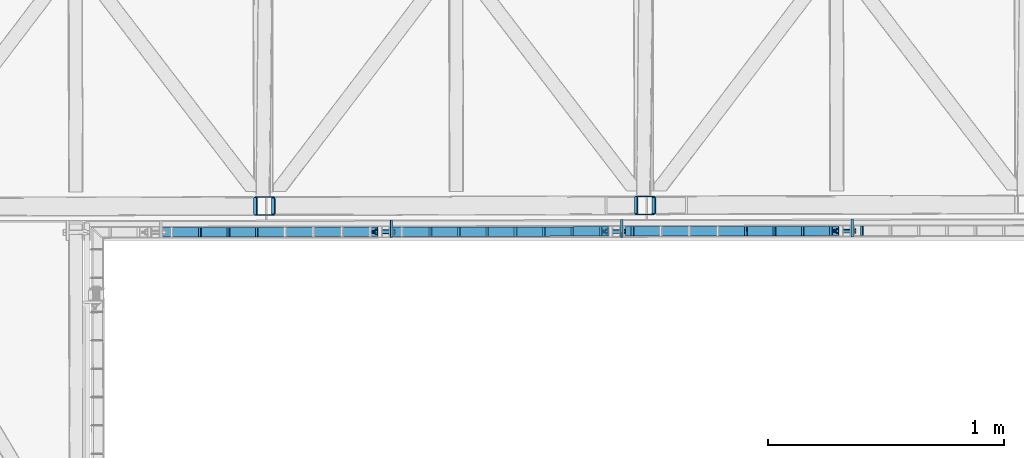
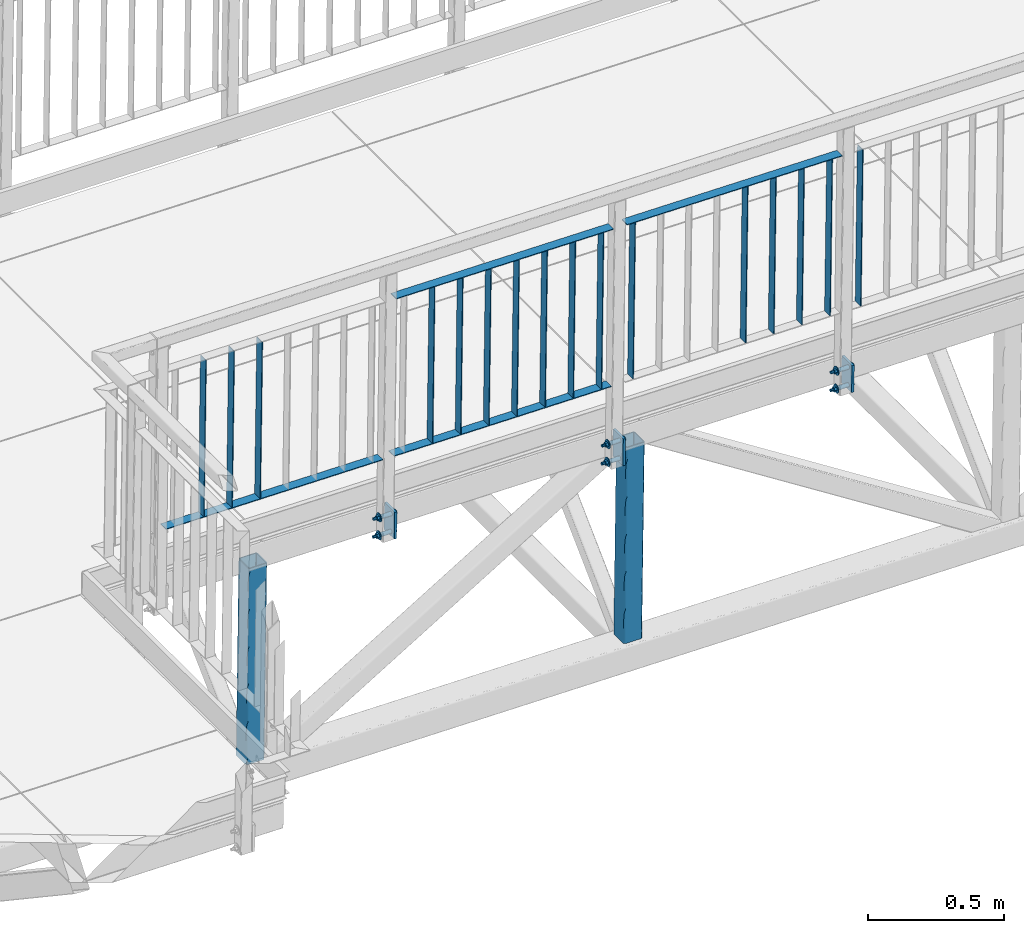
# One storey, part 114 of 169: 25 discrete accessories, 3 mechanical fasteners, 2 elements without a shape of their own.
"""IFC2X3 building model written with IfcOpenShell, lengths in millimetres."""

from ifc_helpers import new_model, si_unit, frame, origin_with_axes, origin_2d_with_axis, place, context, subcontext, project, spatial, polyline, rectangle, hollow_rectangle, circle, outline, extrude, boolean, clip, halfspace, source, transform, mapped, material, type_object, element, aggregate, save


model = new_model("IFC2X3")

# Units and contexts
model_context = context("Model", 3, precision=1e-05, world=origin_with_axes())
body_context = subcontext(model_context, "Body", "Model", "MODEL_VIEW")
ifc_project = project(units=[si_unit("LENGTHUNIT", "METRE", prefix="MILLI"), si_unit("AREAUNIT", "SQUARE_METRE"), si_unit("VOLUMEUNIT", "CUBIC_METRE"), si_unit("MASSUNIT", "GRAM", prefix="KILO"), si_unit("TIMEUNIT", "SECOND"), si_unit("PLANEANGLEUNIT", "RADIAN"), si_unit("SOLIDANGLEUNIT", "STERADIAN"), si_unit("THERMODYNAMICTEMPERATUREUNIT", "DEGREE_CELSIUS"), si_unit("LUMINOUSINTENSITYUNIT", "LUMEN")], contexts=[model_context])

# Site, building, storey
site_placement = place(None, origin_with_axes())
site = spatial("IfcSite", under=ifc_project, at=site_placement, Name="Undefined", CompositionType="ELEMENT")
building_placement = place(site_placement, origin_with_axes())
building = spatial("IfcBuilding", under=site, at=building_placement, Name="Undefined", CompositionType="ELEMENT")
storey_placement = place(building_placement, origin_with_axes())
storey = spatial("IfcBuildingStorey", under=building, at=storey_placement, Name="Undefined", CompositionType="ELEMENT", Elevation=0.0)

# Assembly, discrete accessories
assembly_1_placement = place(storey_placement, origin_with_axes())
assembly_1 = element("IfcElementAssembly", 1, at=assembly_1_placement, inside=storey, Name="Steel Assembly", AssemblyPlace="NOTDEFINED", PredefinedType="RIGID_FRAME")
ifc_material_1 = material(Name="STEEL/S235")
discrete_accessory_type_1 = type_object("IfcDiscreteAccessoryType", Name="BLACHA")
discrete_accessory_1_placement = place(assembly_1_placement, frame((13432.2343643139, 70.0631696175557, 13783.4938656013), z_axis=(-0.999917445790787, -0.00186469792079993, 0.0127131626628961), x_axis=(0.00186484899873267, -0.999998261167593, 4.28757666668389e-08)))
discrete_accessory_1 = element("IfcDiscreteAccessory", 2, at=discrete_accessory_1_placement, type_object=discrete_accessory_type_1, material=ifc_material_1, Name="BLACHA", ObjectType="BL10*120", context=body_context, shape_type="SweptSolid", body=[
    extrude(outline(polyline([(75.0000002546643, -60.0000000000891), (-5.35749222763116e-11, -59.9999999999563), (5.3567816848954e-11, 59.9999999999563), (75.0000002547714, 59.9999999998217), (75.0000002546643, -60.0000000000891)])), frame((-1.81898926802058e-12, -1.18000176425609e-16, -5.00000000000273), z_axis=(0.0, 0.0, 1.0), x_axis=(1.0, 0.0, 0.0)), (0.0, 0.0, 1.0), 10.0),
])
discrete_accessory_2_placement = place(assembly_1_placement, frame((12457.3148546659, 68.2450890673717, 13795.8891985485), z_axis=(-0.999917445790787, -0.00186469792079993, 0.0127131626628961), x_axis=(0.00186484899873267, -0.999998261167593, 4.28757666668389e-08)))
discrete_accessory_2 = element("IfcDiscreteAccessory", 3, at=discrete_accessory_2_placement, type_object=discrete_accessory_type_1, material=ifc_material_1, Name="BLACHA", ObjectType="BL10*120", context=body_context, shape_type="SweptSolid", body=[
    extrude(outline(polyline([(75.0000002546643, -60.0000000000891), (-5.35749222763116e-11, -59.9999999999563), (5.3567816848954e-11, 59.9999999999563), (75.0000002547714, 59.9999999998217), (75.0000002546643, -60.0000000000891)])), frame((-1.81898926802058e-12, -1.18000176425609e-16, -5.00000000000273), z_axis=(0.0, 0.0, 1.0), x_axis=(1.0, 0.0, 0.0)), (0.0, 0.0, 1.0), 10.0),
])
discrete_accessory_3_placement = place(assembly_1_placement, frame((11482.3953450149, 66.4270085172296, 13808.2845314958), z_axis=(-0.999917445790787, -0.00186469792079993, 0.0127131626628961), x_axis=(0.00186484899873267, -0.999998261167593, 4.28757666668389e-08)))
discrete_accessory_3 = element("IfcDiscreteAccessory", 4, at=discrete_accessory_3_placement, type_object=discrete_accessory_type_1, material=ifc_material_1, Name="BLACHA", ObjectType="BL10*120", context=body_context, shape_type="SweptSolid", body=[
    extrude(outline(polyline([(75.0000002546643, -60.0000000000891), (-5.35749222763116e-11, -59.9999999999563), (5.3567816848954e-11, 59.9999999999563), (75.0000002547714, 59.9999999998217), (75.0000002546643, -60.0000000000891)])), frame((-1.81898926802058e-12, -1.18000176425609e-16, -5.00000000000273), z_axis=(0.0, 0.0, 1.0), x_axis=(1.0, 0.0, 0.0)), (0.0, 0.0, 1.0), 10.0),
])
ifc_material_2 = material(Name="STEEL/S355")
discrete_accessory_type_2 = type_object("IfcDiscreteAccessoryType", Name="BEAM")
discrete_accessory_4_placement = place(assembly_1_placement, frame((12549.5842980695, 128.417221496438, 12794.6337078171), z_axis=(-0.999917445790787, -0.00186469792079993, 0.0127131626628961), x_axis=(0.012713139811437, 2.3750999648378e-05, 0.999919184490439)))
discrete_accessory_4 = element("IfcDiscreteAccessory", 5, at=discrete_accessory_4_placement, type_object=discrete_accessory_type_2, material=ifc_material_2, Name="BEAM", ObjectType="K80/4", context=body_context, shape_type="Clipping", body=[
    clip(clip(extrude(hollow_rectangle(XDim=80.0, YDim=80.0, WallThickness=4.0, InnerFilletRadius=4.0, OuterFilletRadius=8.0, at=origin_2d_with_axis()), frame((940.000112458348, 4.54747487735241e-13, 0.0), z_axis=(-1.0, -3.46944695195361e-18, -1.38777878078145e-17), x_axis=(1.73472347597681e-18, -1.0, 0.0)), (0.0, 0.0, 1.0), 880.0), halfspace(frame((940.000112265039, -6.72889655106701e-09, 999.999999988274), z_axis=(-1.0, -3.46944695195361e-18, -1.38777878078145e-17), x_axis=(1.73472347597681e-18, -1.0, 0.0)), True)), halfspace(frame((60.0001122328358, 8.14088707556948e-09, 1000.00000001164), z_axis=(1.0, 0.0, 0.0), x_axis=(0.0, 1.0, 0.0)), True)),
])
discrete_accessory_5_placement = place(assembly_1_placement, frame((10939.7171689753, 125.415057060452, 12815.1018988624), z_axis=(-0.999917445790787, -0.00186469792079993, 0.0127131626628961), x_axis=(0.012713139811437, 2.3750999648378e-05, 0.999919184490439)))
discrete_accessory_5 = element("IfcDiscreteAccessory", 6, at=discrete_accessory_5_placement, type_object=discrete_accessory_type_2, material=ifc_material_2, Name="BEAM", ObjectType="K80/4", context=body_context, shape_type="Clipping", body=[
    clip(clip(extrude(hollow_rectangle(XDim=80.0, YDim=80.0, WallThickness=4.0, InnerFilletRadius=4.0, OuterFilletRadius=8.0, at=origin_2d_with_axis()), frame((940.000112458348, 4.54747487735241e-13, 0.0), z_axis=(-1.0, -3.46944695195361e-18, -1.38777878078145e-17), x_axis=(1.73472347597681e-18, -1.0, 0.0)), (0.0, 0.0, 1.0), 880.0), halfspace(frame((940.000112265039, -6.72889655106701e-09, 999.999999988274), z_axis=(-1.0, -3.46944695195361e-18, -1.38777878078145e-17), x_axis=(1.73472347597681e-18, -1.0, 0.0)), True)), halfspace(frame((60.0001122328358, 8.14088707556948e-09, 1000.00000001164), z_axis=(1.0, 0.0, 0.0), x_axis=(0.0, 1.0, 0.0)), True)),
])
aggregate(assembly_1, [discrete_accessory_1, discrete_accessory_2, discrete_accessory_3, discrete_accessory_4, discrete_accessory_5])

# Assembly, discrete accessories, mechanical fasteners
assembly_2_placement = place(storey_placement, origin_with_axes())
assembly_2 = element("IfcElementAssembly", 7, at=assembly_2_placement, inside=storey, Name="Steel Assembly", AssemblyPlace="NOTDEFINED", PredefinedType="RIGID_FRAME")
discrete_accessory_type_3 = type_object("IfcDiscreteAccessoryType", Name="PORĘCZ")
discrete_accessory_6_placement = place(assembly_2_placement, frame((13480.1217467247, 20.1524350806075, 14942.9799565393), z_axis=(-0.0018648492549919, 0.999998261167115, -4.2996762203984e-08), x_axis=(-0.012713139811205, -2.37511238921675e-05, -0.999919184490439)))
discrete_accessory_6 = element("IfcDiscreteAccessory", 8, at=discrete_accessory_6_placement, type_object=discrete_accessory_type_3, material=ifc_material_1, Name="PORĘCZ", ObjectType="BL40*3", context=body_context, shape_type="Clipping", body=[
    clip(clip(extrude(rectangle(XDim=3.0, YDim=40.0, at=origin_2d_with_axis()), frame((848.500000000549, 1.47191286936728e-15, -8.89750592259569e-16), z_axis=(-1.0, -3.46944695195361e-18, -1.38777878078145e-17), x_axis=(1.73472347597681e-18, -1.0, 0.0)), (0.0, 0.0, 1.0), 702.0), halfspace(frame((848.499999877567, 4.522007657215e-09, 1000.00000000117), z_axis=(-1.0, -3.46944695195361e-18, -1.38777878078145e-17), x_axis=(1.73472347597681e-18, -1.0, 0.0)), True)), halfspace(frame((146.499999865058, 4.97311702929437e-09, 1000.00000000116), z_axis=(1.0, 0.0, 0.0), x_axis=(0.0, 1.0, 0.0)), True)),
])
discrete_accessory_7_placement = place(assembly_2_placement, frame((12509.6026217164, 18.3425605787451, 14955.3193420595), z_axis=(-0.0018648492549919, 0.999998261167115, -4.2996762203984e-08), x_axis=(-0.012713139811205, -2.37511238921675e-05, -0.999919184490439)))
discrete_accessory_7 = element("IfcDiscreteAccessory", 9, at=discrete_accessory_7_placement, type_object=discrete_accessory_type_3, material=ifc_material_1, Name="PORĘCZ", ObjectType="BL40*3", context=body_context, shape_type="Clipping", body=[
    clip(clip(extrude(rectangle(XDim=3.0, YDim=40.0, at=origin_2d_with_axis()), frame((848.500000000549, 1.47191286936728e-15, -8.89750592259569e-16), z_axis=(-1.0, -3.46944695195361e-18, -1.38777878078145e-17), x_axis=(1.73472347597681e-18, -1.0, 0.0)), (0.0, 0.0, 1.0), 702.0), halfspace(frame((848.499999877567, 4.522007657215e-09, 1000.00000000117), z_axis=(-1.0, -3.46944695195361e-18, -1.38777878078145e-17), x_axis=(1.73472347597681e-18, -1.0, 0.0)), True)), halfspace(frame((146.499999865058, 4.97311702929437e-09, 1000.00000000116), z_axis=(1.0, 0.0, 0.0), x_axis=(0.0, 1.0, 0.0)), True)),
])
discrete_accessory_8_placement = place(assembly_2_placement, frame((13445.2314438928, 20.0873635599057, 14798.4118400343), z_axis=(-0.012713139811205, -2.37511238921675e-05, -0.999919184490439), x_axis=(-0.999917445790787, -0.00186469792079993, 0.0127131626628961)))
discrete_accessory_8 = element("IfcDiscreteAccessory", 10, at=discrete_accessory_8_placement, type_object=discrete_accessory_type_3, material=ifc_material_1, Name="PORĘCZ", ObjectType="BL40*3", context=body_context, shape_type="CSG", body=[
    boolean("DIFFERENCE", boolean("DIFFERENCE", boolean("DIFFERENCE", extrude(outline(polyline([(972.599252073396, -19.9999999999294), (55.0000000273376, -19.999999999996), (55.0000000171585, 20.000000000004), (972.599252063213, 20.0000000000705), (972.599252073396, -19.9999999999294)])), frame((1.81898940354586e-12, -1.77635442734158e-15, -1.50000000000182), z_axis=(0.0, 0.0, 1.0), x_axis=(1.0, 0.0, 0.0)), (0.0, 0.0, 1.0), 3.0), extrude(rectangle(XDim=51.0, YDim=51.0, at=origin_2d_with_axis()), frame((-5.94487782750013e-08, -4.65977194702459e-09, -139.999999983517), z_axis=(0.0, 0.0, 1.0), x_axis=(1.0, 0.0, 0.0)), (0.0, 0.0, 1.0), 280.0)), extrude(rectangle(XDim=51.0, YDim=51.0, at=origin_2d_with_axis()), frame((998.099252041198, 3.51939400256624e-08, -140.00000001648), z_axis=(0.0, 0.0, 1.0), x_axis=(1.0, 0.0, 0.0)), (0.0, 0.0, 1.0), 280.0)), halfspace(frame((54.9999997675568, 1000.00000000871, -5.03860064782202e-09), z_axis=(1.0, 0.0, 0.0), x_axis=(-2.54700353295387e-10, 0.0, -1.0)), True)),
])
discrete_accessory_9_placement = place(assembly_2_placement, frame((13349.5332761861, 19.9089068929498, 14944.6402859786), z_axis=(-0.0018648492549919, 0.999998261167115, -4.2996762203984e-08), x_axis=(-0.012713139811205, -2.37511238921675e-05, -0.999919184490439)))
discrete_accessory_9 = element("IfcDiscreteAccessory", 11, at=discrete_accessory_9_placement, type_object=discrete_accessory_type_3, material=ifc_material_1, Name="PORĘCZ", ObjectType="BL40*3", context=body_context, shape_type="Clipping", body=[
    clip(clip(extrude(rectangle(XDim=3.0, YDim=40.0, at=origin_2d_with_axis()), frame((848.500000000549, 1.47191286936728e-15, -8.89750592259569e-16), z_axis=(-1.0, -3.46944695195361e-18, -1.38777878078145e-17), x_axis=(1.73472347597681e-18, -1.0, 0.0)), (0.0, 0.0, 1.0), 702.0), halfspace(frame((848.499999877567, 4.522007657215e-09, 1000.00000000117), z_axis=(-1.0, -3.46944695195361e-18, -1.38777878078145e-17), x_axis=(1.73472347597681e-18, -1.0, 0.0)), True)), halfspace(frame((146.499999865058, 4.97311702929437e-09, 1000.00000000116), z_axis=(1.0, 0.0, 0.0), x_axis=(0.0, 1.0, 0.0)), True)),
])
discrete_accessory_10_placement = place(assembly_2_placement, frame((13229.5431826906, 19.6851431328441, 14946.1658654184), z_axis=(-0.0018648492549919, 0.999998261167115, -4.2996762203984e-08), x_axis=(-0.012713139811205, -2.37511238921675e-05, -0.999919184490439)))
discrete_accessory_10 = element("IfcDiscreteAccessory", 12, at=discrete_accessory_10_placement, type_object=discrete_accessory_type_3, material=ifc_material_1, Name="PORĘCZ", ObjectType="BL40*3", context=body_context, shape_type="Clipping", body=[
    clip(clip(extrude(rectangle(XDim=3.0, YDim=40.0, at=origin_2d_with_axis()), frame((848.500000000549, 1.47191286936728e-15, -8.89750592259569e-16), z_axis=(-1.0, -3.46944695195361e-18, -1.38777878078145e-17), x_axis=(1.73472347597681e-18, -1.0, 0.0)), (0.0, 0.0, 1.0), 702.0), halfspace(frame((848.499999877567, 4.522007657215e-09, 1000.00000000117), z_axis=(-1.0, -3.46944695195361e-18, -1.38777878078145e-17), x_axis=(1.73472347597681e-18, -1.0, 0.0)), True)), halfspace(frame((146.499999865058, 4.97311702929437e-09, 1000.00000000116), z_axis=(1.0, 0.0, 0.0), x_axis=(0.0, 1.0, 0.0)), True)),
])
discrete_accessory_11_placement = place(assembly_2_placement, frame((13109.553089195, 19.4613793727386, 14947.6914448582), z_axis=(-0.0018648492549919, 0.999998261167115, -4.2996762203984e-08), x_axis=(-0.012713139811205, -2.37511238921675e-05, -0.999919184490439)))
discrete_accessory_11 = element("IfcDiscreteAccessory", 13, at=discrete_accessory_11_placement, type_object=discrete_accessory_type_3, material=ifc_material_1, Name="PORĘCZ", ObjectType="BL40*3", context=body_context, shape_type="Clipping", body=[
    clip(clip(extrude(rectangle(XDim=3.0, YDim=40.0, at=origin_2d_with_axis()), frame((848.500000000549, 1.47191286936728e-15, -8.89750592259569e-16), z_axis=(-1.0, -3.46944695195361e-18, -1.38777878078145e-17), x_axis=(1.73472347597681e-18, -1.0, 0.0)), (0.0, 0.0, 1.0), 702.0), halfspace(frame((848.499999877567, 4.522007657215e-09, 1000.00000000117), z_axis=(-1.0, -3.46944695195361e-18, -1.38777878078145e-17), x_axis=(1.73472347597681e-18, -1.0, 0.0)), True)), halfspace(frame((146.499999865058, 4.97311702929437e-09, 1000.00000000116), z_axis=(1.0, 0.0, 0.0), x_axis=(0.0, 1.0, 0.0)), True)),
])
discrete_accessory_12_placement = place(assembly_2_placement, frame((12989.5629956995, 19.2376156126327, 14949.217024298), z_axis=(-0.0018648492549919, 0.999998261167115, -4.2996762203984e-08), x_axis=(-0.012713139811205, -2.37511238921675e-05, -0.999919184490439)))
discrete_accessory_12 = element("IfcDiscreteAccessory", 14, at=discrete_accessory_12_placement, type_object=discrete_accessory_type_3, material=ifc_material_1, Name="PORĘCZ", ObjectType="BL40*3", context=body_context, shape_type="Clipping", body=[
    clip(clip(extrude(rectangle(XDim=3.0, YDim=40.0, at=origin_2d_with_axis()), frame((848.500000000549, 1.47191286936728e-15, -8.89750592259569e-16), z_axis=(-1.0, -3.46944695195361e-18, -1.38777878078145e-17), x_axis=(1.73472347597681e-18, -1.0, 0.0)), (0.0, 0.0, 1.0), 702.0), halfspace(frame((848.499999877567, 4.522007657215e-09, 1000.00000000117), z_axis=(-1.0, -3.46944695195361e-18, -1.38777878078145e-17), x_axis=(1.73472347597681e-18, -1.0, 0.0)), True)), halfspace(frame((146.499999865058, 4.97311702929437e-09, 1000.00000000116), z_axis=(1.0, 0.0, 0.0), x_axis=(0.0, 1.0, 0.0)), True)),
])
discrete_accessory_13_placement = place(assembly_2_placement, frame((12460.3127597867, 18.2506360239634, 14810.9343046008), z_axis=(-0.012713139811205, -2.37511238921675e-05, -0.999919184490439), x_axis=(-0.999917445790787, -0.00186469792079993, 0.0127131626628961)))
discrete_accessory_13 = element("IfcDiscreteAccessory", 15, at=discrete_accessory_13_placement, type_object=discrete_accessory_type_3, material=ifc_material_1, Name="PORĘCZ", ObjectType="BL40*3", context=body_context, shape_type="CSG", body=[
    boolean("DIFFERENCE", boolean("DIFFERENCE", boolean("DIFFERENCE", extrude(outline(polyline([(972.599252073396, -19.9999999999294), (45.0000000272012, -19.9999999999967), (45.0000000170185, 20.0000000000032), (972.599252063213, 20.0000000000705), (972.599252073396, -19.9999999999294)])), frame((1.81898940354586e-12, -1.77635442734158e-15, -1.50000000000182), z_axis=(0.0, 0.0, 1.0), x_axis=(1.0, 0.0, 0.0)), (0.0, 0.0, 1.0), 3.0), extrude(rectangle(XDim=51.0, YDim=51.0, at=origin_2d_with_axis()), frame((-5.94487782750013e-08, -4.65977194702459e-09, -139.999999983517), z_axis=(0.0, 0.0, 1.0), x_axis=(1.0, 0.0, 0.0)), (0.0, 0.0, 1.0), 280.0)), extrude(rectangle(XDim=51.0, YDim=51.0, at=origin_2d_with_axis()), frame((998.099252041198, 3.51939400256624e-08, -140.00000001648), z_axis=(0.0, 0.0, 1.0), x_axis=(1.0, 0.0, 0.0)), (0.0, 0.0, 1.0), 280.0)), halfspace(frame((44.9999997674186, 1000.00000000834, -5.01677277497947e-09), z_axis=(1.0, 0.0, 0.0), x_axis=(-2.54700353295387e-10, 0.0, -1.0)), True)),
])
discrete_accessory_14_placement = place(assembly_2_placement, frame((12374.6137665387, 18.090826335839, 14957.0356189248), z_axis=(-0.0018648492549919, 0.999998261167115, -4.2996762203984e-08), x_axis=(-0.012713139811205, -2.37511238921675e-05, -0.999919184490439)))
discrete_accessory_14 = element("IfcDiscreteAccessory", 16, at=discrete_accessory_14_placement, type_object=discrete_accessory_type_3, material=ifc_material_1, Name="PORĘCZ", ObjectType="BL40*3", context=body_context, shape_type="Clipping", body=[
    clip(clip(extrude(rectangle(XDim=3.0, YDim=40.0, at=origin_2d_with_axis()), frame((848.500000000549, 1.47191286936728e-15, -8.89750592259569e-16), z_axis=(-1.0, -3.46944695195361e-18, -1.38777878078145e-17), x_axis=(1.73472347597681e-18, -1.0, 0.0)), (0.0, 0.0, 1.0), 702.0), halfspace(frame((848.499999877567, 4.522007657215e-09, 1000.00000000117), z_axis=(-1.0, -3.46944695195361e-18, -1.38777878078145e-17), x_axis=(1.73472347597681e-18, -1.0, 0.0)), True)), halfspace(frame((146.499999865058, 4.97311702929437e-09, 1000.00000000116), z_axis=(1.0, 0.0, 0.0), x_axis=(0.0, 1.0, 0.0)), True)),
])
discrete_accessory_15_placement = place(assembly_2_placement, frame((12254.6236730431, 17.8670625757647, 14958.5611983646), z_axis=(-0.0018648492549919, 0.999998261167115, -4.2996762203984e-08), x_axis=(-0.012713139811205, -2.37511238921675e-05, -0.999919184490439)))
discrete_accessory_15 = element("IfcDiscreteAccessory", 17, at=discrete_accessory_15_placement, type_object=discrete_accessory_type_3, material=ifc_material_1, Name="PORĘCZ", ObjectType="BL40*3", context=body_context, shape_type="Clipping", body=[
    clip(clip(extrude(rectangle(XDim=3.0, YDim=40.0, at=origin_2d_with_axis()), frame((848.500000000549, 1.47191286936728e-15, -8.89750592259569e-16), z_axis=(-1.0, -3.46944695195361e-18, -1.38777878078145e-17), x_axis=(1.73472347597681e-18, -1.0, 0.0)), (0.0, 0.0, 1.0), 702.0), halfspace(frame((848.499999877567, 4.522007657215e-09, 1000.00000000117), z_axis=(-1.0, -3.46944695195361e-18, -1.38777878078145e-17), x_axis=(1.73472347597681e-18, -1.0, 0.0)), True)), halfspace(frame((146.499999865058, 4.97311702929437e-09, 1000.00000000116), z_axis=(1.0, 0.0, 0.0), x_axis=(0.0, 1.0, 0.0)), True)),
])
discrete_accessory_16_placement = place(assembly_2_placement, frame((12134.6335795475, 17.6432988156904, 14960.0867778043), z_axis=(-0.0018648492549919, 0.999998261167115, -4.2996762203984e-08), x_axis=(-0.012713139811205, -2.37511238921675e-05, -0.999919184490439)))
discrete_accessory_16 = element("IfcDiscreteAccessory", 18, at=discrete_accessory_16_placement, type_object=discrete_accessory_type_3, material=ifc_material_1, Name="PORĘCZ", ObjectType="BL40*3", context=body_context, shape_type="Clipping", body=[
    clip(clip(extrude(rectangle(XDim=3.0, YDim=40.0, at=origin_2d_with_axis()), frame((848.500000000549, 1.47191286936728e-15, -8.89750592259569e-16), z_axis=(-1.0, -3.46944695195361e-18, -1.38777878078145e-17), x_axis=(1.73472347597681e-18, -1.0, 0.0)), (0.0, 0.0, 1.0), 702.0), halfspace(frame((848.499999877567, 4.522007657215e-09, 1000.00000000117), z_axis=(-1.0, -3.46944695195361e-18, -1.38777878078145e-17), x_axis=(1.73472347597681e-18, -1.0, 0.0)), True)), halfspace(frame((146.499999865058, 4.97311702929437e-09, 1000.00000000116), z_axis=(1.0, 0.0, 0.0), x_axis=(0.0, 1.0, 0.0)), True)),
])
discrete_accessory_17_placement = place(assembly_2_placement, frame((12014.6434860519, 17.4195350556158, 14961.6123572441), z_axis=(-0.0018648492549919, 0.999998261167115, -4.2996762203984e-08), x_axis=(-0.012713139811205, -2.37511238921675e-05, -0.999919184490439)))
discrete_accessory_17 = element("IfcDiscreteAccessory", 19, at=discrete_accessory_17_placement, type_object=discrete_accessory_type_3, material=ifc_material_1, Name="PORĘCZ", ObjectType="BL40*3", context=body_context, shape_type="Clipping", body=[
    clip(clip(extrude(rectangle(XDim=3.0, YDim=40.0, at=origin_2d_with_axis()), frame((848.500000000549, 1.47191286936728e-15, -8.89750592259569e-16), z_axis=(-1.0, -3.46944695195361e-18, -1.38777878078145e-17), x_axis=(1.73472347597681e-18, -1.0, 0.0)), (0.0, 0.0, 1.0), 702.0), halfspace(frame((848.499999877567, 4.522007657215e-09, 1000.00000000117), z_axis=(-1.0, -3.46944695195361e-18, -1.38777878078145e-17), x_axis=(1.73472347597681e-18, -1.0, 0.0)), True)), halfspace(frame((146.499999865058, 4.97311702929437e-09, 1000.00000000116), z_axis=(1.0, 0.0, 0.0), x_axis=(0.0, 1.0, 0.0)), True)),
])
discrete_accessory_18_placement = place(assembly_2_placement, frame((11894.6533925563, 17.1957712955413, 14963.1379366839), z_axis=(-0.0018648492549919, 0.999998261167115, -4.2996762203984e-08), x_axis=(-0.012713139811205, -2.37511238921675e-05, -0.999919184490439)))
discrete_accessory_18 = element("IfcDiscreteAccessory", 20, at=discrete_accessory_18_placement, type_object=discrete_accessory_type_3, material=ifc_material_1, Name="PORĘCZ", ObjectType="BL40*3", context=body_context, shape_type="Clipping", body=[
    clip(clip(extrude(rectangle(XDim=3.0, YDim=40.0, at=origin_2d_with_axis()), frame((848.500000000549, 1.47191286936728e-15, -8.89750592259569e-16), z_axis=(-1.0, -3.46944695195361e-18, -1.38777878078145e-17), x_axis=(1.73472347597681e-18, -1.0, 0.0)), (0.0, 0.0, 1.0), 702.0), halfspace(frame((848.499999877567, 4.522007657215e-09, 1000.00000000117), z_axis=(-1.0, -3.46944695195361e-18, -1.38777878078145e-17), x_axis=(1.73472347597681e-18, -1.0, 0.0)), True)), halfspace(frame((146.499999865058, 4.97311702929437e-09, 1000.00000000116), z_axis=(1.0, 0.0, 0.0), x_axis=(0.0, 1.0, 0.0)), True)),
])
discrete_accessory_19_placement = place(assembly_2_placement, frame((11774.6632990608, 16.9720075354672, 14964.6635161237), z_axis=(-0.0018648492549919, 0.999998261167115, -4.2996762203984e-08), x_axis=(-0.012713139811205, -2.37511238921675e-05, -0.999919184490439)))
discrete_accessory_19 = element("IfcDiscreteAccessory", 21, at=discrete_accessory_19_placement, type_object=discrete_accessory_type_3, material=ifc_material_1, Name="PORĘCZ", ObjectType="BL40*3", context=body_context, shape_type="Clipping", body=[
    clip(clip(extrude(rectangle(XDim=3.0, YDim=40.0, at=origin_2d_with_axis()), frame((848.500000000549, 1.47191286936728e-15, -8.89750592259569e-16), z_axis=(-1.0, -3.46944695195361e-18, -1.38777878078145e-17), x_axis=(1.73472347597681e-18, -1.0, 0.0)), (0.0, 0.0, 1.0), 702.0), halfspace(frame((848.499999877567, 4.522007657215e-09, 1000.00000000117), z_axis=(-1.0, -3.46944695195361e-18, -1.38777878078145e-17), x_axis=(1.73472347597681e-18, -1.0, 0.0)), True)), halfspace(frame((146.499999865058, 4.97311702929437e-09, 1000.00000000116), z_axis=(1.0, 0.0, 0.0), x_axis=(0.0, 1.0, 0.0)), True)),
])
discrete_accessory_20_placement = place(assembly_2_placement, frame((11654.6732055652, 16.7482437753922, 14966.1890955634), z_axis=(-0.0018648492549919, 0.999998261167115, -4.2996762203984e-08), x_axis=(-0.012713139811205, -2.37511238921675e-05, -0.999919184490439)))
discrete_accessory_20 = element("IfcDiscreteAccessory", 22, at=discrete_accessory_20_placement, type_object=discrete_accessory_type_3, material=ifc_material_1, Name="PORĘCZ", ObjectType="BL40*3", context=body_context, shape_type="Clipping", body=[
    clip(clip(extrude(rectangle(XDim=3.0, YDim=40.0, at=origin_2d_with_axis()), frame((848.500000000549, 1.47191286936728e-15, -8.89750592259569e-16), z_axis=(-1.0, -3.46944695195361e-18, -1.38777878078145e-17), x_axis=(1.73472347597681e-18, -1.0, 0.0)), (0.0, 0.0, 1.0), 702.0), halfspace(frame((848.499999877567, 4.522007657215e-09, 1000.00000000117), z_axis=(-1.0, -3.46944695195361e-18, -1.38777878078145e-17), x_axis=(1.73472347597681e-18, -1.0, 0.0)), True)), halfspace(frame((146.499999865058, 4.97311702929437e-09, 1000.00000000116), z_axis=(1.0, 0.0, 0.0), x_axis=(0.0, 1.0, 0.0)), True)),
])
discrete_accessory_21_placement = place(assembly_2_placement, frame((12451.3499962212, 18.2338914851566, 14105.9912795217), z_axis=(-0.012713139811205, -2.37511238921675e-05, -0.999919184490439), x_axis=(-0.999917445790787, -0.00186469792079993, 0.0127131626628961)))
discrete_accessory_21 = element("IfcDiscreteAccessory", 23, at=discrete_accessory_21_placement, type_object=discrete_accessory_type_3, material=ifc_material_1, Name="PORĘCZ", ObjectType="BL40*3", context=body_context, shape_type="CSG", body=[
    boolean("DIFFERENCE", boolean("DIFFERENCE", boolean("DIFFERENCE", extrude(outline(polyline([(972.599252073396, -19.9999999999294), (45.0000000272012, -19.9999999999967), (45.0000000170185, 20.0000000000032), (972.599252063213, 20.0000000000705), (972.599252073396, -19.9999999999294)])), frame((1.81898940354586e-12, -1.77635442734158e-15, -1.50000000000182), z_axis=(0.0, 0.0, 1.0), x_axis=(1.0, 0.0, 0.0)), (0.0, 0.0, 1.0), 3.0), extrude(rectangle(XDim=51.0, YDim=51.0, at=origin_2d_with_axis()), frame((-5.94487782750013e-08, -4.65977194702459e-09, -139.999999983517), z_axis=(0.0, 0.0, 1.0), x_axis=(1.0, 0.0, 0.0)), (0.0, 0.0, 1.0), 280.0)), extrude(rectangle(XDim=51.0, YDim=51.0, at=origin_2d_with_axis()), frame((998.099252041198, 3.51939400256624e-08, -140.00000001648), z_axis=(0.0, 0.0, 1.0), x_axis=(1.0, 0.0, 0.0)), (0.0, 0.0, 1.0), 280.0)), halfspace(frame((44.9999997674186, 1000.00000000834, -5.01677277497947e-09), z_axis=(1.0, 0.0, 0.0), x_axis=(-2.54700353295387e-10, 0.0, -1.0)), True)),
])
discrete_accessory_22_placement = place(assembly_2_placement, frame((10919.7338829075, 15.3776907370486, 14975.5332696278), z_axis=(-0.0018648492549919, 0.999998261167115, -4.2996762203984e-08), x_axis=(-0.012713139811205, -2.37511238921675e-05, -0.999919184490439)))
discrete_accessory_22 = element("IfcDiscreteAccessory", 24, at=discrete_accessory_22_placement, type_object=discrete_accessory_type_3, material=ifc_material_1, Name="PORĘCZ", ObjectType="BL40*3", context=body_context, shape_type="Clipping", body=[
    clip(clip(extrude(rectangle(XDim=3.0, YDim=40.0, at=origin_2d_with_axis()), frame((848.500000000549, 1.47191286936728e-15, -8.89750592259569e-16), z_axis=(-1.0, -3.46944695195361e-18, -1.38777878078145e-17), x_axis=(1.73472347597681e-18, -1.0, 0.0)), (0.0, 0.0, 1.0), 702.0), halfspace(frame((848.499999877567, 4.522007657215e-09, 1000.00000000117), z_axis=(-1.0, -3.46944695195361e-18, -1.38777878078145e-17), x_axis=(1.73472347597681e-18, -1.0, 0.0)), True)), halfspace(frame((146.499999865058, 4.97311702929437e-09, 1000.00000000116), z_axis=(1.0, 0.0, 0.0), x_axis=(0.0, 1.0, 0.0)), True)),
])
discrete_accessory_23_placement = place(assembly_2_placement, frame((10799.7437894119, 15.153926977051, 14977.0588490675), z_axis=(-0.0018648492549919, 0.999998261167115, -4.2996762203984e-08), x_axis=(-0.012713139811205, -2.37511238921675e-05, -0.999919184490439)))
discrete_accessory_23 = element("IfcDiscreteAccessory", 25, at=discrete_accessory_23_placement, type_object=discrete_accessory_type_3, material=ifc_material_1, Name="PORĘCZ", ObjectType="BL40*3", context=body_context, shape_type="Clipping", body=[
    clip(clip(extrude(rectangle(XDim=3.0, YDim=40.0, at=origin_2d_with_axis()), frame((848.500000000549, 1.47191286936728e-15, -8.89750592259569e-16), z_axis=(-1.0, -3.46944695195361e-18, -1.38777878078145e-17), x_axis=(1.73472347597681e-18, -1.0, 0.0)), (0.0, 0.0, 1.0), 702.0), halfspace(frame((848.499999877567, 4.522007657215e-09, 1000.00000000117), z_axis=(-1.0, -3.46944695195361e-18, -1.38777878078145e-17), x_axis=(1.73472347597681e-18, -1.0, 0.0)), True)), halfspace(frame((146.499999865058, 4.97311702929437e-09, 1000.00000000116), z_axis=(1.0, 0.0, 0.0), x_axis=(0.0, 1.0, 0.0)), True)),
])
discrete_accessory_24_placement = place(assembly_2_placement, frame((10679.7536959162, 14.9301632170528, 14978.5844285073), z_axis=(-0.0018648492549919, 0.999998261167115, -4.2996762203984e-08), x_axis=(-0.012713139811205, -2.37511238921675e-05, -0.999919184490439)))
discrete_accessory_24 = element("IfcDiscreteAccessory", 26, at=discrete_accessory_24_placement, type_object=discrete_accessory_type_3, material=ifc_material_1, Name="PORĘCZ", ObjectType="BL40*3", context=body_context, shape_type="Clipping", body=[
    clip(clip(extrude(rectangle(XDim=3.0, YDim=40.0, at=origin_2d_with_axis()), frame((848.500000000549, 1.47191286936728e-15, -8.89750592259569e-16), z_axis=(-1.0, -3.46944695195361e-18, -1.38777878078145e-17), x_axis=(1.73472347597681e-18, -1.0, 0.0)), (0.0, 0.0, 1.0), 702.0), halfspace(frame((848.499999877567, 4.522007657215e-09, 1000.00000000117), z_axis=(-1.0, -3.46944695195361e-18, -1.38777878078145e-17), x_axis=(1.73472347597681e-18, -1.0, 0.0)), True)), halfspace(frame((146.499999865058, 4.97311702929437e-09, 1000.00000000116), z_axis=(1.0, 0.0, 0.0), x_axis=(0.0, 1.0, 0.0)), True)),
])
discrete_accessory_25_placement = place(assembly_2_placement, frame((11466.431312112, 16.3971639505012, 14118.5137440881), z_axis=(-0.012713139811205, -2.37511238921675e-05, -0.999919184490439), x_axis=(-0.999917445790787, -0.00186469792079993, 0.0127131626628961)))
discrete_accessory_25 = element("IfcDiscreteAccessory", 27, at=discrete_accessory_25_placement, type_object=discrete_accessory_type_3, material=ifc_material_1, Name="PORĘCZ", ObjectType="BL40*3", context=body_context, shape_type="CSG", body=[
    boolean("DIFFERENCE", boolean("DIFFERENCE", boolean("DIFFERENCE", boolean("DIFFERENCE", extrude(outline(polyline([(960.000000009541, -19.9999999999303), (35.0000000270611, -19.9999999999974), (35.0000000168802, 20.0000000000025), (959.999999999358, 20.0000000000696), (960.000000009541, -19.9999999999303)])), frame((1.81898940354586e-12, -1.77635442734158e-15, -1.50000000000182), z_axis=(0.0, 0.0, 1.0), x_axis=(1.0, 0.0, 0.0)), (0.0, 0.0, 1.0), 3.0), extrude(rectangle(XDim=51.0, YDim=51.0, at=origin_2d_with_axis()), frame((-5.94487782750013e-08, -4.65977194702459e-09, -139.999999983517), z_axis=(0.0, 0.0, 1.0), x_axis=(1.0, 0.0, 0.0)), (0.0, 0.0, 1.0), 280.0)), extrude(rectangle(XDim=51.0, YDim=51.0, at=origin_2d_with_axis()), frame((998.099252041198, 3.51939400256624e-08, -140.00000001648), z_axis=(0.0, 0.0, 1.0), x_axis=(1.0, 0.0, 0.0)), (0.0, 0.0, 1.0), 280.0)), halfspace(frame((34.9999997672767, 1000.00000000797, -5.00222085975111e-09), z_axis=(1.0, 0.0, 0.0), x_axis=(-2.54700353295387e-10, 0.0, -1.0)), True)), halfspace(frame((959.999999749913, 999.999999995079, 2.57205101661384e-09), z_axis=(-1.0, -3.46944695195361e-18, -1.38777878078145e-17), x_axis=(0.0, 0.0, 1.0)), True)),
])
ifc_material_3 = material(Name="Undefined")
discrete_accessory_type_4 = type_object("IfcDiscreteAccessoryType", Name="Bolt assembly")
shared_shape = source(origin_with_axes(), body_context, "Body", "SweptSolid", [
    extrude(circle(Radius=9.0, at=origin_2d_with_axis()), frame((0.0, -4.90000000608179, 0.0), z_axis=(0.0, 1.0, 0.0), x_axis=(1.0, 0.0, 0.0)), (0.0, 0.0, 1.0), 10.0),
    extrude(circle(Radius=9.0, at=origin_2d_with_axis()), frame((0.0, 4.89999999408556, 0.0), z_axis=(0.0, 1.0, 0.0), x_axis=(1.0, 0.0, 0.0)), (0.0, 0.0, 1.0), 50.1),
    extrude(outline(polyline([(10.39230484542, 0.0), (5.19615242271, 9.00000000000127), (-5.19615242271, 9.00000000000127), (-10.39230484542, 0.0), (-5.19615242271, -9.00000000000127), (5.19615242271, -9.00000000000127), (10.39230484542, 0.0)])), frame((0.0, -15.5000000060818, 0.0), z_axis=(0.0, 1.0, 0.0), x_axis=(1.0, 0.0, 0.0)), (0.0, 0.0, 1.0), 7.5),
    extrude(circle(Radius=6.0, at=origin_2d_with_axis()), frame((0.0, -8.00000000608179, 0.0), z_axis=(0.0, 1.0, 0.0), x_axis=(1.0, 0.0, 0.0)), (0.0, 0.0, 1.0), 90.0),
    extrude(circle(Radius=18.5, at=origin_2d_with_axis()), frame((0.0, -8.00000000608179, 0.0), z_axis=(0.0, 1.0, 0.0), x_axis=(1.0, 0.0, 0.0)), (0.0, 0.0, 1.0), 3.0),
    extrude(circle(Radius=18.5, at=origin_2d_with_axis()), frame((0.0, 54.9999999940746, 0.0), z_axis=(0.0, 1.0, 0.0), x_axis=(1.0, 0.0, 0.0)), (0.0, 0.0, 1.0), 3.0),
    extrude(outline(polyline([(10.96965511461, 0.0), (5.484827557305, 9.50000000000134), (-5.484827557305, 9.50000000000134), (-10.96965511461, 0.0), (-5.484827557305, -9.50000000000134), (5.484827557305, -9.50000000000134), (10.96965511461, 0.0)])), frame((0.0, 57.9999999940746, 0.0), z_axis=(0.0, 1.0, 0.0), x_axis=(1.0, 0.0, 0.0)), (0.0, 0.0, 1.0), 10.0),
])
mechanical_fastener_1_placement = place(assembly_2_placement, frame((13432.3339633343, 20.0632681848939, 13783.9938273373), z_axis=(0.0127140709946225, -0.00047624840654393, 0.999919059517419), x_axis=(-0.00185849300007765, 0.999998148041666, 0.000499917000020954)))
mechanical_fastener_1 = element("IfcMechanicalFastener", 28, at=mechanical_fastener_1_placement, type_object=discrete_accessory_type_4, material=ifc_material_3, Name="Bolt assembly", NominalDiameter=12.0, NominalLength=90.0, context=body_context, shape_type="MappedRepresentation", body=[
    mapped(shared_shape, transform((-1.15463194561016e-14, 5.45696821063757e-11, -39.9999999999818))),
    mapped(shared_shape, transform((8.88178419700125e-15, -5.54791768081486e-11, 39.99999999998))),
])
mechanical_fastener_2_placement = place(assembly_2_placement, frame((12457.4144536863, 18.2451876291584, 13796.3891602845), z_axis=(0.0127140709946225, -0.00047624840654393, 0.999919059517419), x_axis=(-0.00185849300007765, 0.999998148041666, 0.000499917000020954)))
mechanical_fastener_2 = element("IfcMechanicalFastener", 29, at=mechanical_fastener_2_placement, type_object=discrete_accessory_type_4, material=ifc_material_3, Name="Bolt assembly", NominalDiameter=12.0, NominalLength=90.0, context=body_context, shape_type="MappedRepresentation", body=[
    mapped(shared_shape, transform((-1.15463194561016e-14, 5.45696821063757e-11, -39.9999999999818))),
    mapped(shared_shape, transform((8.88178419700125e-15, -5.54791768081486e-11, 39.99999999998))),
])
mechanical_fastener_3_placement = place(assembly_2_placement, frame((11482.4949440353, 16.427107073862, 13808.7844932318), z_axis=(0.0127140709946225, -0.00047624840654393, 0.999919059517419), x_axis=(-0.00185849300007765, 0.999998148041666, 0.000499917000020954)))
mechanical_fastener_3 = element("IfcMechanicalFastener", 30, at=mechanical_fastener_3_placement, type_object=discrete_accessory_type_4, material=ifc_material_3, Name="Bolt assembly", NominalDiameter=12.0, NominalLength=90.0, context=body_context, shape_type="MappedRepresentation", body=[
    mapped(shared_shape, transform((-1.15463194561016e-14, 5.45696821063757e-11, -39.9999999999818))),
    mapped(shared_shape, transform((8.88178419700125e-15, -5.54791768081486e-11, 39.99999999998))),
])
aggregate(assembly_2, [discrete_accessory_6, mechanical_fastener_1, discrete_accessory_7, discrete_accessory_8, discrete_accessory_9, discrete_accessory_10, discrete_accessory_11, discrete_accessory_12, mechanical_fastener_2, discrete_accessory_13, discrete_accessory_14, discrete_accessory_15, discrete_accessory_16, discrete_accessory_17, discrete_accessory_18, discrete_accessory_19, discrete_accessory_20, discrete_accessory_21, discrete_accessory_22, discrete_accessory_23, discrete_accessory_24, discrete_accessory_25, mechanical_fastener_3])

save(model, "model.ifc")
